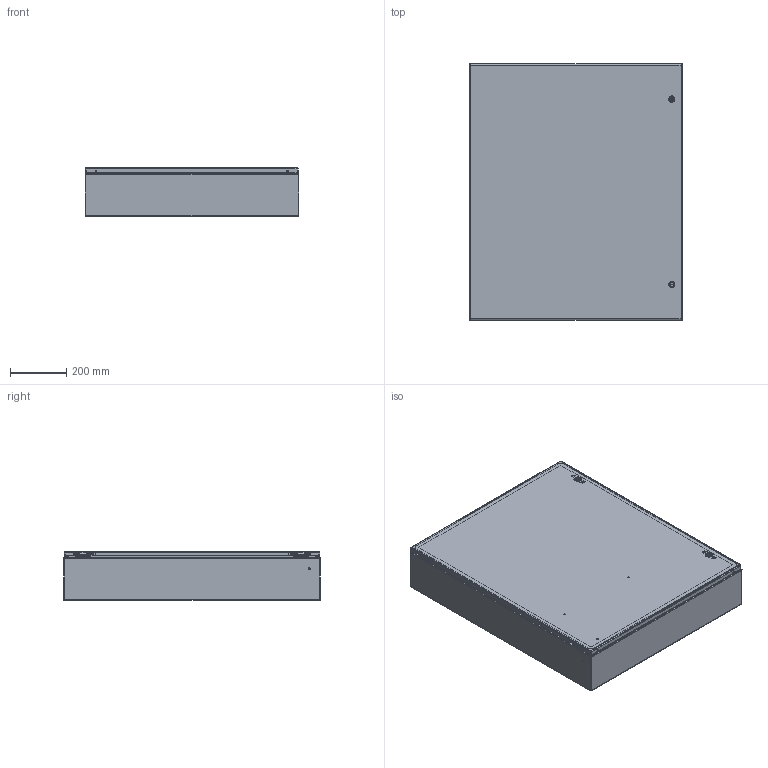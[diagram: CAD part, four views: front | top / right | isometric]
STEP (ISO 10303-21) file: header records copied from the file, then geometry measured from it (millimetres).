
FILE_DESCRIPTION (( 'STEP AP203' ), '1' );
FILE_NAME ('29416.step', '2015-03-30T06:22:14', ( '' ), ( '' ), 'SwSTEP 2.0', 'SolidWorks 2010', '' );
FILE_SCHEMA (( 'CONFIG_CONTROL_DESIGN' ));
Length unit declared in the file: inch
Products named in the file (24): 29416; 89117008; 89117007_default; 23271001_After Weld; 87937945_assy; 87937985_weldment; 87936144; 99401225; 87931362_87931362; 64101001; 64201001; 87541994_Installed Height; 87541995; 64202001; 64210001; 64203001; 87938010; 87543027; 89076399; 89076193; 89056623; 87929507; 87929767; 87929769_Installed on Pin
Assembly tree (34 placements, depth 4):
  29416
    89117008
      23271001_After Weld  x6
      89117007_default
      99401225
    87543027  x2
    89076399  x2
      89056623
      89076193
    87929507  x2
      87929769_Installed on Pin
      87929767
    87937945_assy
      64101001  x2
        87541994_Installed Height
        87541995
        64202001
        64201001
        64203001
        64210001
      87937985_weldment
        87931362_87931362  x2
        87936144
        99401225
      87938010
Bounding box: 762 x 914.4 x 173.1 mm (x, y, z)
Volume: 3987683.2 mm3; surface area: 4249333.6 mm2
Topology: 37 solids, 37 shells, 1593 faces, 3902 edges, 2408 vertices
Faces by surface type: plane 647, cylinder 522, bspline 224, torus 120, cone 72, sphere 8
Entity records: 34637 total; most frequent: CARTESIAN_POINT 10039, ORIENTED_EDGE 4612, DIRECTION 4390, EDGE_CURVE 2306, AXIS2_PLACEMENT_3D 1561, VERTEX_POINT 1420, VECTOR 1268, LINE 1268
